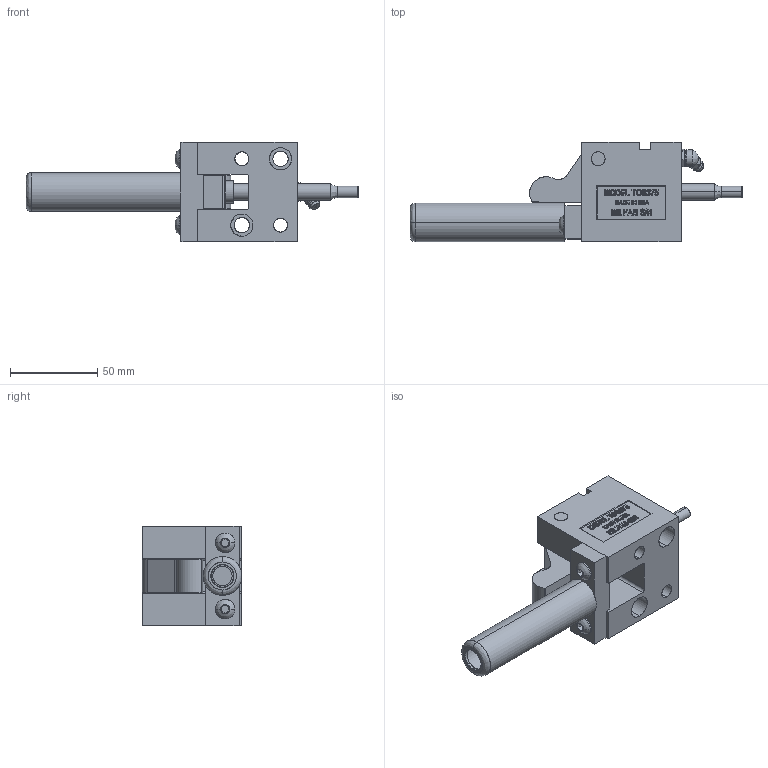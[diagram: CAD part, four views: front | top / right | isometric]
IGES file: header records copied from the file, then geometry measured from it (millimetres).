
Start section: SolidWorks IGES file using analytic representation for surfaces
Global section: file name: Y:\JIM'S INCH CAM UNITS\TOS37545\CLOSED\TOS37545-C.IGS; native system: SolidWorks 2006 by SolidWorks Corporation; preprocessor: SolidWorks 2006 by SolidWorks Corporation; author: Jim; date: 090210.171839; units: inch
Bounding box: 190.5 x 57.15 x 57.15 mm (x, y, z)
Surface area: 57820.2 mm2 (no closed solid volume)
Topology: 0 solids, 0 shells, 587 faces, 7173 edges, 7169 vertices
Faces by surface type: bspline 471, revolution 116
